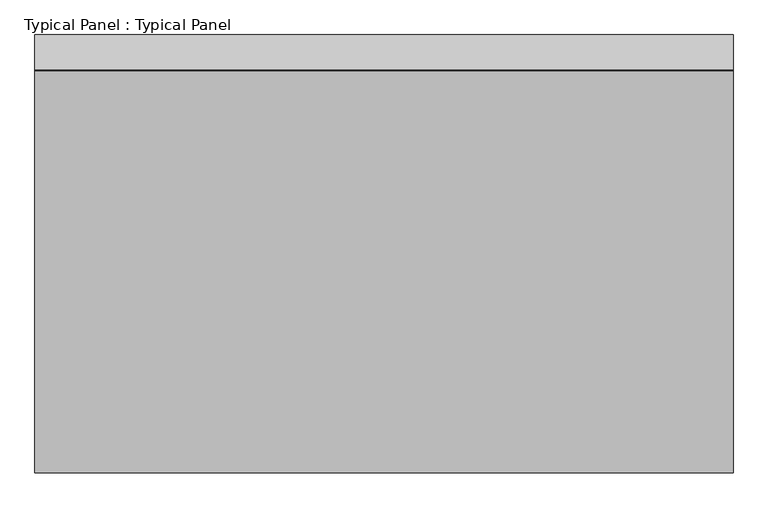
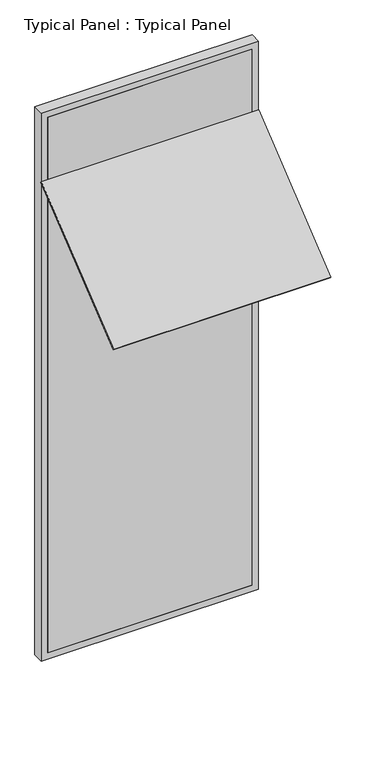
"""IFC4 building model written with IfcOpenShell, lengths in millimetres: plate geometry, Typical Panel : Typical Panel."""

import ifcopenshell
import ifcopenshell.guid

model = None  # the IFC model being written
_history = None  # IfcOwnerHistory: only IFC2X3 demands one
_inside = {}  # id of a spatial element -> (the spatial element, [elements in it])
_under = {}  # id of a project, library or spatial element -> (it, [spatial elements below it])
_declared = {}  # id of a project -> (the project, [libraries it declares])
_typed = {}  # id of a type object -> (the type object, [elements of that type])
_made_of = {}  # id of a material, layer set ... -> (it, [elements and type objects made of it])


def new_model(schema):
    """Start an empty IFC model of exactly this schema.

    Asked for "IFC4X3", IfcOpenShell would pick the latest addendum, in which some entities
    have other attributes; the version numbers below select the first issue.
    IFC2X3 requires an IfcOwnerHistory on every rooted entity: one is made here for all.
    """
    global model, _history
    if schema == "IFC4X3":
        model = ifcopenshell.file(schema_version=(4, 3, 0, 0))
    else:
        model = ifcopenshell.file(schema=schema)
    _inside.clear()
    _under.clear()
    _declared.clear()
    _typed.clear()
    _made_of.clear()
    _history = None
    if model.schema == "IFC2X3":
        org = make("IfcOrganization", Name="unknown")
        user = make(
            "IfcPersonAndOrganization",
            ThePerson=make("IfcPerson", FamilyName="unknown"),
            TheOrganization=org,
        )
        app = make(
            "IfcApplication",
            ApplicationDeveloper=org,
            Version="unknown",
            ApplicationFullName="unknown",
            ApplicationIdentifier="unknown",
        )
        _history = make(
            "IfcOwnerHistory",
            OwningUser=user,
            OwningApplication=app,
            ChangeAction="ADDED",
            CreationDate=0,
        )
    return model


def make(cls, **values):
    """One entity of the class cls with the attributes given. An attribute that is None is left unset."""
    return model.create_entity(
        cls, **{name: value for name, value in values.items() if value is not None}
    )


def rooted(cls, **values):
    """An entity with a GlobalId (a new one), such as an element, a storey or a relation."""
    return make(cls, GlobalId=ifcopenshell.guid.new(), OwnerHistory=_history, **values)


def si_unit(unit_type, name, prefix=None):
    """IfcSIUnit, for example si_unit("LENGTHUNIT", "METRE", prefix="MILLI")."""
    return make("IfcSIUnit", UnitType=unit_type, Prefix=prefix, Name=name)


def assignment(units):
    """IfcUnitAssignment: the units of a project."""
    return None if units is None else make("IfcUnitAssignment", Units=units)


def point(xyz):
    """IfcCartesianPoint."""
    return None if xyz is None else make("IfcCartesianPoint", Coordinates=xyz)


def direction(xyz):
    """IfcDirection."""
    return None if xyz is None else make("IfcDirection", DirectionRatios=xyz)


def frame(location, z_axis=None, x_axis=None):
    """IfcAxis2Placement3D, a coordinate frame: its origin and axes. An axis left out is left unset."""
    return make(
        "IfcAxis2Placement3D",
        Location=point(location),
        Axis=direction(z_axis),
        RefDirection=direction(x_axis),
    )


def origin():
    """The frame at (0, 0, 0) with its axes left unset."""
    return frame((0.0, 0.0, 0.0))


def place(relative_to, where):
    """IfcLocalPlacement: puts the frame where relative to a parent placement (None: the world)."""
    return make(
        "IfcLocalPlacement", PlacementRelTo=relative_to, RelativePlacement=where
    )


def context(
    kind, dimensions, precision=None, world=None, true_north=None, identifier=None
):
    """IfcGeometricRepresentationContext, for example the 3D "Model" context."""
    return make(
        "IfcGeometricRepresentationContext",
        ContextIdentifier=identifier,
        ContextType=kind,
        CoordinateSpaceDimension=dimensions,
        Precision=precision,
        WorldCoordinateSystem=world,
        TrueNorth=true_north,
    )


def project(units=None, contexts=None):
    """IfcProject with its units and contexts."""
    return rooted(
        "IfcProject",
        Name="project",
        RepresentationContexts=contexts,
        UnitsInContext=assignment(units),
    )


def spatial(cls, under=None, at=None, **own):
    """A site, building, storey or space (cls), placed at a placement, below another one or the project."""
    s = rooted(cls, ObjectPlacement=at, **own)
    if under is not None:
        _under.setdefault(under.id(), (under, []))[1].append(s)
    return s


def polyline(points):
    """IfcPolyline through the points."""
    return make("IfcPolyline", Points=[point(p) for p in points])


def outline(outer, holes=None, kind="AREA"):
    """IfcArbitraryClosedProfileDef: a profile drawn as a closed curve; with holes, ...WithVoids."""
    if holes is None:
        return make("IfcArbitraryClosedProfileDef", ProfileType=kind, OuterCurve=outer)
    return make(
        "IfcArbitraryProfileDefWithVoids",
        ProfileType=kind,
        OuterCurve=outer,
        InnerCurves=holes,
    )


def extrude(swept, where, along, depth):
    """IfcExtrudedAreaSolid: the profile swept, set in the frame where, extruded along a direction by depth."""
    return make(
        "IfcExtrudedAreaSolid",
        SweptArea=swept,
        Position=where,
        ExtrudedDirection=direction(along),
        Depth=depth,
    )


def shape(context_of_items, identifier, shape_type, items):
    """IfcShapeRepresentation: the items that make up one representation, for example the "Body"."""
    return make(
        "IfcShapeRepresentation",
        ContextOfItems=context_of_items,
        RepresentationIdentifier=identifier,
        RepresentationType=shape_type,
        Items=items,
    )


def source(mapping_origin, context_of_items, identifier, shape_type, items):
    """IfcRepresentationMap: a shape defined once, which mapped items show again and again."""
    return make(
        "IfcRepresentationMap",
        MappingOrigin=mapping_origin,
        MappedRepresentation=shape(context_of_items, identifier, shape_type, items),
    )


def transform(
    local_origin,
    x_axis=None,
    y_axis=None,
    z_axis=None,
    scale=None,
    scale2=None,
    scale3=None,
    uniform=True,
):
    """IfcCartesianTransformationOperator3D, or its non-uniform kind. x_axis, y_axis, z_axis: its Axis1, 2, 3."""
    if uniform:
        return make(
            "IfcCartesianTransformationOperator3D",
            Axis1=direction(x_axis),
            Axis2=direction(y_axis),
            LocalOrigin=point(local_origin),
            Scale=scale,
            Axis3=direction(z_axis),
        )
    return make(
        "IfcCartesianTransformationOperator3DnonUniform",
        Axis1=direction(x_axis),
        Axis2=direction(y_axis),
        LocalOrigin=point(local_origin),
        Scale=scale,
        Axis3=direction(z_axis),
        Scale2=scale2,
        Scale3=scale3,
    )


def mapped(mapping_source, mapping_target):
    """IfcMappedItem: shows the shape of a source again, moved by a transform."""
    return make(
        "IfcMappedItem", MappingSource=mapping_source, MappingTarget=mapping_target
    )


def made_of(thing, what):
    """Note that an element or type object is made of a material, layer set ...; save() writes the relation."""
    if what is not None:
        _made_of.setdefault(what.id(), (what, []))[1].append(thing)
    return thing


def element(
    cls,
    number,
    at=None,
    inside=None,
    cuts=None,
    type_object=None,
    material=None,
    context=None,
    identifier="Body",
    shape_type=None,
    held_by="IfcProductDefinitionShape",
    body=None,
    shapes=None,
    **own,
):
    """One element of the class cls, such as IfcWall. Its Tag is "e" and its number.

    at: its placement. inside: the storey or other place that contains it. cuts: it is an
    opening in that element (IfcRelVoidsElement). A single representation is given by context,
    identifier, shape_type and body (its items); several are given by shapes. held_by: the class
    of the entity that holds the representations. save() writes the other relations.
    """
    e = rooted(cls, Tag="e%d" % number, ObjectPlacement=at, **own)
    if body is not None:
        shapes = [shape(context, identifier, shape_type, body)]
    if shapes is not None:
        e.Representation = make(held_by, Representations=shapes)
    if inside is not None:
        _inside.setdefault(inside.id(), (inside, []))[1].append(e)
    if cuts is not None:
        rooted(
            "IfcRelVoidsElement", RelatingBuildingElement=cuts, RelatedOpeningElement=e
        )
    if type_object is not None:
        _typed.setdefault(type_object.id(), (type_object, []))[1].append(e)
    return made_of(e, material)


def aggregate(whole, parts):
    """IfcRelAggregates: a whole, such as a stair, and the parts it consists of."""
    return rooted("IfcRelAggregates", RelatingObject=whole, RelatedObjects=parts)


def save(model, path):
    """Write the relations noted so far, then the file.

    IfcRelAggregates (storeys below a building ...), IfcRelContainedInSpatialStructure (elements
    in a storey), IfcRelDefinesByType, IfcRelAssociatesMaterial and IfcRelDeclares: one each for
    every whole, place, type object, material and project.
    """
    for whole, parts in _under.values():
        aggregate(whole, parts)
    for where, things in _inside.values():
        rooted(
            "IfcRelContainedInSpatialStructure",
            RelatedElements=things,
            RelatingStructure=where,
        )
    for kind, things in _typed.values():
        rooted("IfcRelDefinesByType", RelatedObjects=things, RelatingType=kind)
    for what, things in _made_of.values():
        rooted("IfcRelAssociatesMaterial", RelatedObjects=things, RelatingMaterial=what)
    for by, libraries in _declared.values():
        rooted("IfcRelDeclares", RelatingContext=by, RelatedDefinitions=libraries)
    model.write(path)


def typical_panel_typical_panel_a2fd8389(model_context):
    return source(origin(), model_context, "Body", "SweptSolid", [
        extrude(outline(polyline([(0.0, -1110.0), (0.0, 0.0), (1500.0, 0.0), (1500.0, -1110.0), (0.0, -1110.0)])), frame((750.0, -861.3388133, 2793.6829063), z_axis=(0.0, -0.629320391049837, 0.7771459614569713), x_axis=(-1.0, 0.0, 0.0)), (0.0, 0.0, 1.0), 10.0),
        extrude(outline(polyline([(0.0, -750.0), (0.0, 750.0), (4000.0, 750.0), (4000.0, -750.0), (0.0, -750.0)]), holes=[polyline([(45.0, 705.0), (45.0, -705.0), (3955.0, -705.0), (3955.0, 705.0), (45.0, 705.0)])]), frame((0.0, -1.5797986, 0.0), z_axis=(0.0, 1.0, 0.0), x_axis=(0.0, 0.0, 1.0)), (0.0, 0.0, 1.0), 75.0),
        extrude(outline(polyline([(705.0, -1.5797986), (-705.0, -1.5797986), (-705.0, 13.4202014), (705.0, 13.4202014), (705.0, -1.5797986)])), frame((0.0, 0.0, 45.0), z_axis=(0.0, 0.0, 1.0), x_axis=(1.0, 0.0, 0.0)), (0.0, 0.0, 1.0), 3910.0),
    ])


if __name__ == "__main__":
    model = new_model("IFC4")
    model_context = context("Model", 3, world=origin())
    ifc_project = project(units=[si_unit("LENGTHUNIT", "METRE", prefix="MILLI")], contexts=[model_context])
    site = spatial("IfcSite", under=ifc_project)
    building = spatial("IfcBuilding", under=site)
    placement = place(None, origin())
    typical_panel_typical_panel_shape = typical_panel_typical_panel_a2fd8389(model_context)
    element("IfcPlate", 1, ObjectType="Typical Panel : Typical Panel", at=placement, inside=building, context=model_context, shape_type="MappedRepresentation", body=[
        mapped(typical_panel_typical_panel_shape, transform((0.0, 0.0, 0.0), x_axis=(1.0, 0.0, 0.0), y_axis=(0.0, 1.0, 0.0), z_axis=(0.0, 0.0, 1.0))),
    ])
    save(model, "model.ifc")
